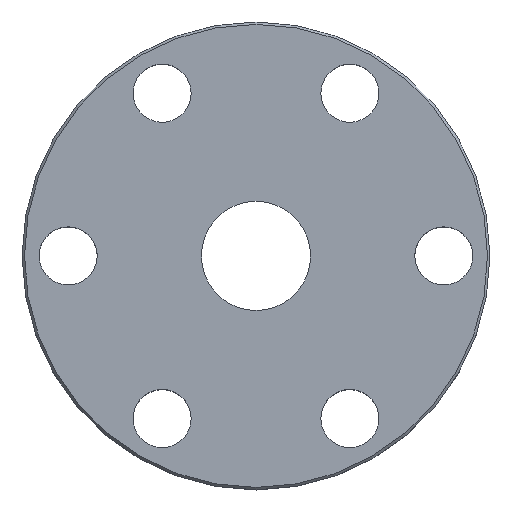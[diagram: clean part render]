
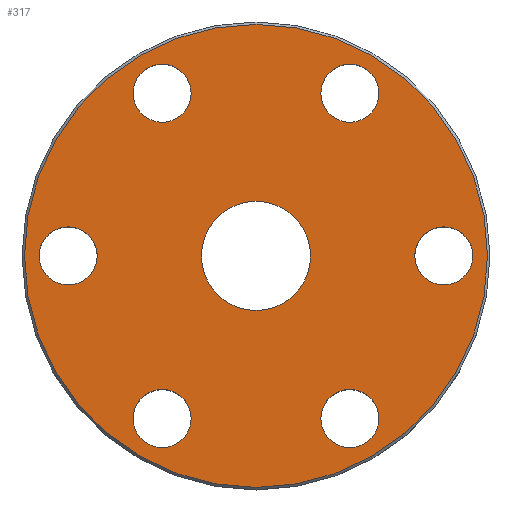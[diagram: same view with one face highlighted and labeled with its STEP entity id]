
A CAD part, top view. The second image highlights one B-rep face of the part: STEP entity #317.
In plain terms, the highlighted planar face has unit normal (0, 0, 1).
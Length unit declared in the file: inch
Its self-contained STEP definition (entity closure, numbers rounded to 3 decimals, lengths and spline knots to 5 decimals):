
#19=FACE_BOUND('',#74,.T.);
#20=FACE_BOUND('',#75,.T.);
#21=FACE_BOUND('',#76,.T.);
#22=FACE_BOUND('',#77,.T.);
#23=FACE_BOUND('',#78,.T.);
#24=FACE_BOUND('',#79,.T.);
#25=FACE_BOUND('',#80,.T.);
#36=PLANE('',#356);
#54=FACE_OUTER_BOUND('',#73,.T.);
#73=EDGE_LOOP('',(#241));
#74=EDGE_LOOP('',(#242));
#75=EDGE_LOOP('',(#243));
#76=EDGE_LOOP('',(#244));
#77=EDGE_LOOP('',(#245));
#78=EDGE_LOOP('',(#246));
#79=EDGE_LOOP('',(#247));
#80=EDGE_LOOP('',(#248));
#135=CIRCLE('',#350,0.678);
#140=CIRCLE('',#357,0.16);
#141=CIRCLE('',#358,0.085);
#142=CIRCLE('',#359,0.085);
#143=CIRCLE('',#360,0.085);
#144=CIRCLE('',#361,0.085);
#145=CIRCLE('',#362,0.085);
#146=CIRCLE('',#363,0.085);
#162=VERTEX_POINT('',#511);
#167=VERTEX_POINT('',#525);
#168=VERTEX_POINT('',#527);
#169=VERTEX_POINT('',#529);
#170=VERTEX_POINT('',#531);
#171=VERTEX_POINT('',#533);
#172=VERTEX_POINT('',#535);
#173=VERTEX_POINT('',#537);
#189=EDGE_CURVE('',#162,#162,#135,.T.);
#196=EDGE_CURVE('',#167,#167,#140,.T.);
#197=EDGE_CURVE('',#168,#168,#141,.T.);
#198=EDGE_CURVE('',#169,#169,#142,.T.);
#199=EDGE_CURVE('',#170,#170,#143,.T.);
#200=EDGE_CURVE('',#171,#171,#144,.T.);
#201=EDGE_CURVE('',#172,#172,#145,.T.);
#202=EDGE_CURVE('',#173,#173,#146,.T.);
#241=ORIENTED_EDGE('',*,*,#189,.F.);
#242=ORIENTED_EDGE('',*,*,#196,.F.);
#243=ORIENTED_EDGE('',*,*,#197,.T.);
#244=ORIENTED_EDGE('',*,*,#198,.T.);
#245=ORIENTED_EDGE('',*,*,#199,.T.);
#246=ORIENTED_EDGE('',*,*,#200,.T.);
#247=ORIENTED_EDGE('',*,*,#201,.T.);
#248=ORIENTED_EDGE('',*,*,#202,.T.);
#317=ADVANCED_FACE('',(#54,#19,#20,#21,#22,#23,#24,#25),#36,.T.);
#350=AXIS2_PLACEMENT_3D('',#512,#402,#403);
#356=AXIS2_PLACEMENT_3D('',#524,#416,#417);
#357=AXIS2_PLACEMENT_3D('',#526,#418,#419);
#358=AXIS2_PLACEMENT_3D('',#528,#420,#421);
#359=AXIS2_PLACEMENT_3D('',#530,#422,#423);
#360=AXIS2_PLACEMENT_3D('',#532,#424,#425);
#361=AXIS2_PLACEMENT_3D('',#534,#426,#427);
#362=AXIS2_PLACEMENT_3D('',#536,#428,#429);
#363=AXIS2_PLACEMENT_3D('',#538,#430,#431);
#402=DIRECTION('center_axis',(0.,0.,-1.));
#403=DIRECTION('ref_axis',(-1.,0.,0.));
#416=DIRECTION('center_axis',(0.,0.,1.));
#417=DIRECTION('ref_axis',(1.,0.,0.));
#418=DIRECTION('center_axis',(0.,0.,1.));
#419=DIRECTION('ref_axis',(1.,0.,0.));
#420=DIRECTION('center_axis',(0.,0.,-1.));
#421=DIRECTION('ref_axis',(1.,0.,0.));
#422=DIRECTION('center_axis',(0.,0.,-1.));
#423=DIRECTION('ref_axis',(1.,0.,0.));
#424=DIRECTION('center_axis',(0.,0.,-1.));
#425=DIRECTION('ref_axis',(1.,0.,0.));
#426=DIRECTION('center_axis',(0.,0.,-1.));
#427=DIRECTION('ref_axis',(1.,0.,0.));
#428=DIRECTION('center_axis',(0.,0.,-1.));
#429=DIRECTION('ref_axis',(1.,0.,0.));
#430=DIRECTION('center_axis',(0.,0.,-1.));
#431=DIRECTION('ref_axis',(1.,0.,0.));
#511=CARTESIAN_POINT('',(0.678,0.,0.323));
#512=CARTESIAN_POINT('Origin',(0.,0.,0.323));
#524=CARTESIAN_POINT('Origin',(0.16,0.,0.323));
#525=CARTESIAN_POINT('',(-0.16,0.,0.323));
#526=CARTESIAN_POINT('Origin',(0.,0.,0.323));
#527=CARTESIAN_POINT('',(-0.635,0.,0.323));
#528=CARTESIAN_POINT('Origin',(-0.55,0.,0.323));
#529=CARTESIAN_POINT('',(-0.36,-0.47631,0.323));
#530=CARTESIAN_POINT('Origin',(-0.275,-0.47631,0.323));
#531=CARTESIAN_POINT('',(0.19,-0.47631,0.323));
#532=CARTESIAN_POINT('Origin',(0.275,-0.47631,0.323));
#533=CARTESIAN_POINT('',(0.465,0.,0.323));
#534=CARTESIAN_POINT('Origin',(0.55,0.,0.323));
#535=CARTESIAN_POINT('',(0.19,0.47631,0.323));
#536=CARTESIAN_POINT('Origin',(0.275,0.47631,0.323));
#537=CARTESIAN_POINT('',(-0.36,0.47631,0.323));
#538=CARTESIAN_POINT('Origin',(-0.275,0.47631,0.323));
